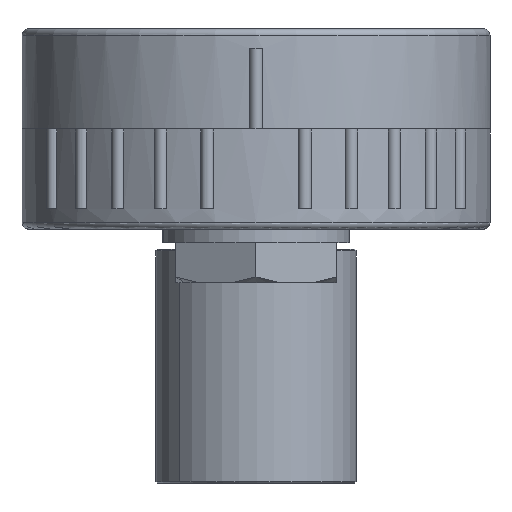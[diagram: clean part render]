
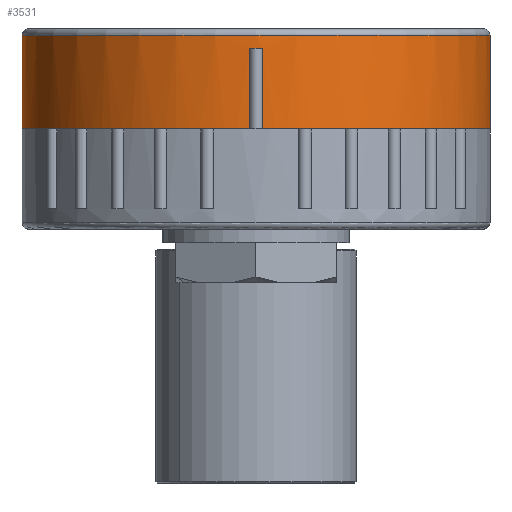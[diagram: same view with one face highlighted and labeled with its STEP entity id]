
A CAD part, front view. The second image highlights one B-rep face of the part: STEP entity #3531.
In plain terms, the highlighted cylindrical face has radius 35 mm (diameter 70 mm), a partial arc.
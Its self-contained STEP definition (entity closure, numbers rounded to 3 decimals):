
#20 = AXIS2_PLACEMENT_3D ( 'NONE', #1934, #4102, #5646 ) ;
#207 = DIRECTION ( 'NONE',  ( 0., 0., 1. ) ) ;
#335 = AXIS2_PLACEMENT_3D ( 'NONE', #9031, #207, #5448 ) ;
#444 = LINE ( 'NONE', #5736, #8102 ) ;
#875 = EDGE_CURVE ( 'NONE', #7602, #2240, #9490, .T. ) ;
#1204 = ORIENTED_EDGE ( 'NONE', *, *, #2862, .F. ) ;
#1248 = CARTESIAN_POINT ( 'NONE',  ( 0., 0., 29. ) ) ;
#1352 = ORIENTED_EDGE ( 'NONE', *, *, #8129, .T. ) ;
#1526 = CARTESIAN_POINT ( 'NONE',  ( -35., 0., 15.05 ) ) ;
#1598 = CYLINDRICAL_SURFACE ( 'NONE', #335, 35. ) ;
#1631 = VERTEX_POINT ( 'NONE', #3752 ) ;
#1934 = CARTESIAN_POINT ( 'NONE',  ( 0., 0., 27.05 ) ) ;
#2002 = CARTESIAN_POINT ( 'NONE',  ( 35., 0., 29. ) ) ;
#2240 = VERTEX_POINT ( 'NONE', #5760 ) ;
#2246 = EDGE_CURVE ( 'NONE', #1631, #3818, #5500, .T. ) ;
#2770 = VERTEX_POINT ( 'NONE', #7899 ) ;
#2775 = VERTEX_POINT ( 'NONE', #4173 ) ;
#2862 = EDGE_CURVE ( 'NONE', #2770, #1631, #6549, .T. ) ;
#2992 = ORIENTED_EDGE ( 'NONE', *, *, #8082, .T. ) ;
#3077 = VECTOR ( 'NONE', #7649, 1000. ) ;
#3086 = VECTOR ( 'NONE', #8367, 1000. ) ;
#3165 = CARTESIAN_POINT ( 'NONE',  ( 1., -34.986, 0. ) ) ;
#3211 = FACE_OUTER_BOUND ( 'NONE', #9180, .T. ) ;
#3231 = ORIENTED_EDGE ( 'NONE', *, *, #2246, .F. ) ;
#3336 = DIRECTION ( 'NONE',  ( 0., 0., 1. ) ) ;
#3372 = DIRECTION ( 'NONE',  ( 1., 0., 0. ) ) ;
#3522 = DIRECTION ( 'NONE',  ( 1., 0., 0. ) ) ;
#3531 = ADVANCED_FACE ( 'NONE', ( #3211 ), #1598, .T. ) ;
#3693 = CIRCLE ( 'NONE', #3836, 35. ) ;
#3752 = CARTESIAN_POINT ( 'NONE',  ( 35., -0.018, 29. ) ) ;
#3788 = DIRECTION ( 'NONE',  ( 1., 0., 0. ) ) ;
#3818 = VERTEX_POINT ( 'NONE', #2002 ) ;
#3836 = AXIS2_PLACEMENT_3D ( 'NONE', #4821, #5141, #3788 ) ;
#3850 = DIRECTION ( 'NONE',  ( 1., 0., 0. ) ) ;
#3995 = AXIS2_PLACEMENT_3D ( 'NONE', #5293, #8283, #3850 ) ;
#4102 = DIRECTION ( 'NONE',  ( 0., 0., 1. ) ) ;
#4124 = ORIENTED_EDGE ( 'NONE', *, *, #875, .T. ) ;
#4173 = CARTESIAN_POINT ( 'NONE',  ( 35., 0., 15.05 ) ) ;
#4267 = EDGE_CURVE ( 'NONE', #5417, #7602, #444, .T. ) ;
#4581 = CIRCLE ( 'NONE', #9575, 35. ) ;
#4821 = CARTESIAN_POINT ( 'NONE',  ( 0., 0., 15.05 ) ) ;
#5138 = ORIENTED_EDGE ( 'NONE', *, *, #7390, .T. ) ;
#5141 = DIRECTION ( 'NONE',  ( 0., 0., 1. ) ) ;
#5293 = CARTESIAN_POINT ( 'NONE',  ( 0., 0., 29. ) ) ;
#5316 = CARTESIAN_POINT ( 'NONE',  ( 1., -34.986, 15.05 ) ) ;
#5417 = VERTEX_POINT ( 'NONE', #6120 ) ;
#5448 = DIRECTION ( 'NONE',  ( 1., 0., 0. ) ) ;
#5500 = CIRCLE ( 'NONE', #5722, 35. ) ;
#5579 = CARTESIAN_POINT ( 'NONE',  ( -1., -34.986, 27.05 ) ) ;
#5646 = DIRECTION ( 'NONE',  ( 1., 0., 0. ) ) ;
#5667 = ORIENTED_EDGE ( 'NONE', *, *, #7186, .F. ) ;
#5722 = AXIS2_PLACEMENT_3D ( 'NONE', #1248, #6449, #3522 ) ;
#5736 = CARTESIAN_POINT ( 'NONE',  ( -1., -34.986, 0. ) ) ;
#5760 = CARTESIAN_POINT ( 'NONE',  ( 1., -34.986, 27.05 ) ) ;
#6120 = CARTESIAN_POINT ( 'NONE',  ( -1., -34.986, 15.05 ) ) ;
#6141 = CARTESIAN_POINT ( 'NONE',  ( -35., 0., 0. ) ) ;
#6421 = VERTEX_POINT ( 'NONE', #1526 ) ;
#6449 = DIRECTION ( 'NONE',  ( 0., 0., 1. ) ) ;
#6473 = VECTOR ( 'NONE', #7659, 1000. ) ;
#6549 = CIRCLE ( 'NONE', #3995, 35. ) ;
#7018 = ORIENTED_EDGE ( 'NONE', *, *, #4267, .T. ) ;
#7186 = EDGE_CURVE ( 'NONE', #6421, #2770, #9140, .T. ) ;
#7293 = ORIENTED_EDGE ( 'NONE', *, *, #7487, .T. ) ;
#7378 = LINE ( 'NONE', #3165, #3077 ) ;
#7390 = EDGE_CURVE ( 'NONE', #9283, #2775, #3693, .T. ) ;
#7487 = EDGE_CURVE ( 'NONE', #2775, #3818, #8434, .T. ) ;
#7602 = VERTEX_POINT ( 'NONE', #5579 ) ;
#7649 = DIRECTION ( 'NONE',  ( 0., 0., -1. ) ) ;
#7659 = DIRECTION ( 'NONE',  ( 0., 0., 1. ) ) ;
#7899 = CARTESIAN_POINT ( 'NONE',  ( -35., 0., 29. ) ) ;
#8082 = EDGE_CURVE ( 'NONE', #2240, #9283, #7378, .T. ) ;
#8102 = VECTOR ( 'NONE', #9484, 1000. ) ;
#8129 = EDGE_CURVE ( 'NONE', #6421, #5417, #4581, .T. ) ;
#8283 = DIRECTION ( 'NONE',  ( 0., 0., 1. ) ) ;
#8366 = CARTESIAN_POINT ( 'NONE',  ( 35., 0., 0. ) ) ;
#8367 = DIRECTION ( 'NONE',  ( 0., 0., 1. ) ) ;
#8434 = LINE ( 'NONE', #8366, #6473 ) ;
#8618 = CARTESIAN_POINT ( 'NONE',  ( 0., 0., 15.05 ) ) ;
#9031 = CARTESIAN_POINT ( 'NONE',  ( 0., 0., 0. ) ) ;
#9140 = LINE ( 'NONE', #6141, #3086 ) ;
#9180 = EDGE_LOOP ( 'NONE', ( #5667, #1352, #7018, #4124, #2992, #5138, #7293, #3231, #1204 ) ) ;
#9283 = VERTEX_POINT ( 'NONE', #5316 ) ;
#9484 = DIRECTION ( 'NONE',  ( 0., 0., 1. ) ) ;
#9490 = CIRCLE ( 'NONE', #20, 35. ) ;
#9575 = AXIS2_PLACEMENT_3D ( 'NONE', #8618, #3336, #3372 ) ;
